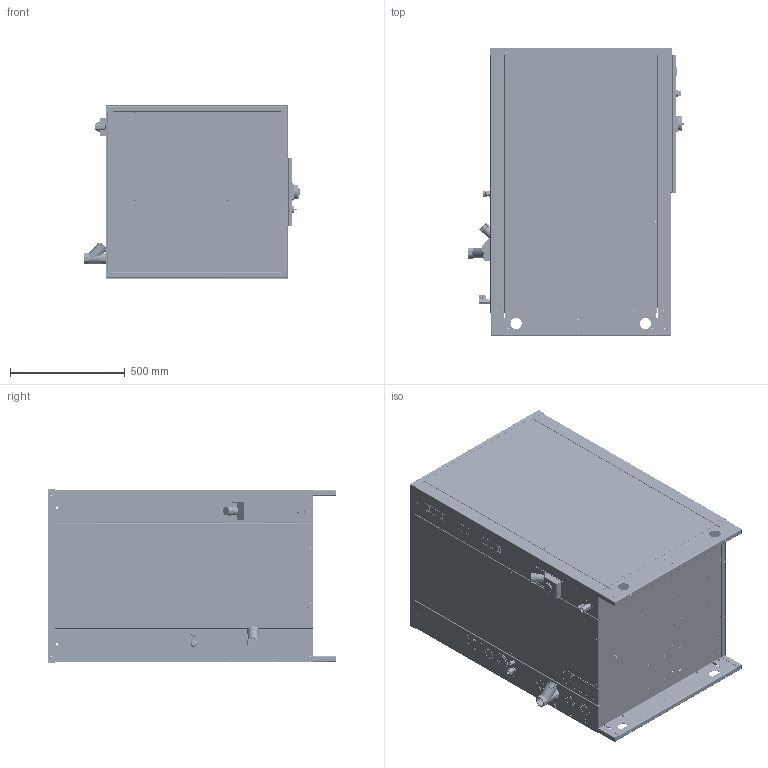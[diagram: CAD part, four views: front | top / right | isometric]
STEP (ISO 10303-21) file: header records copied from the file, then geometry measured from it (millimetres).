
FILE_DESCRIPTION (( 'STEP AP203' ), '1' );
FILE_NAME ('W-SCW_F2_REV_00.STEP', '2026-07-21T07:47:21', ( '' ), ( '' ), 'SwSTEP 2.0', 'SolidWorks 2023', '' );
FILE_SCHEMA (( 'CONFIG_CONTROL_DESIGN' ));
Length unit declared in the file: millimetre
Products named in the file (36): CR-2F-00008; TE-EL-00018; RIVELOX M5; VR-2F-00002_001; SEZIONATORE-GR_D2; CR-2F-00006_003A; QC_BASE_D2_D3-600X300X200; VR-2F-00008_003; TAPPO 1P  FEM ; VR-2F-00007_004; PG 9_1_Socket-1.209.0900.14-Nelco; PG 9_2_Nut-PA-Grey-19-19-22-Nelco; SE-RR-00025_000; CR-2F-00006_002B; VA-A5-00001; SE-RP-00044_002; SELETTORE_NERO; VR-2F-00011_000; FI-AC-00070 - FILTRO Y 11-4 POLLICE; VR-2F-00017_000; W-SCW_F2_REV_00; CR-2F-00006_003; VR-2F-00006_003; VR-2F-00016_000; PG-16; VR-2F-00005_003; VR-2F-00010_000; CR-2F-00007_004; IN-VI-00001; FILETTO_RUBINETTO_VA-A5-00001; VR-2F-00003_001; PG 9_Cable-Gland-1.209.0900.14-Nelco; CR-QU-00040_000; CR-2F-00005_004
Assembly tree (64 placements, depth 3):
  W-SCW_F2_REV_00
    VR-2F-00003_001
      VR-2F-00003_001
      RIVELOX M5  x24
    VR-2F-00007_004
    VR-2F-00008_003
    VR-2F-00005_003
    VR-2F-00006_003
    CR-2F-00005_004
    CR-2F-00006_003
      CR-2F-00006_003A
      CR-2F-00006_002B
    VR-2F-00016_000
    CR-2F-00007_004
      CR-2F-00007_004
      RIVELOX M5  x6
    VR-2F-00010_000
    VR-2F-00011_000
    VR-2F-00017_000
    CR-2F-00008
    VR-2F-00002_001
    QC_BASE_D2_D3-600X300X200
      CR-QU-00040_000
      SEZIONATORE-GR_D2
      SELETTORE_NERO
      TE-EL-00018
      SE-RR-00025_000
    PG 9_Cable-Gland-1.209.0900.14-Nelco
      PG 9_1_Socket-1.209.0900.14-Nelco
      PG 9_2_Nut-PA-Grey-19-19-22-Nelco
    PG-16
    IN-VI-00001
    TAPPO 1P  FEM 
    SE-RP-00044_002
    FILETTO_RUBINETTO_VA-A5-00001
    VA-A5-00001
    FI-AC-00070 - FILTRO Y 11-4 POLLICE
Bounding box: 936.09 x 1254.2 x 757 mm (x, y, z)
Volume: 10473128.3 mm3; surface area: 16323348.7 mm2
Topology: 139 solids, 234 shells, 7896 faces, 20322 edges, 12816 vertices
Faces by surface type: plane 4506, cylinder 2063, bspline 707, cone 299, torus 210, sphere 111
Entity records: 273136 total; most frequent: CARTESIAN_POINT 92236, ORIENTED_EDGE 38403, DIRECTION 32287, EDGE_CURVE 19423, VERTEX_POINT 12292, VECTOR 11181, LINE 11181, AXIS2_PLACEMENT_3D 10553
